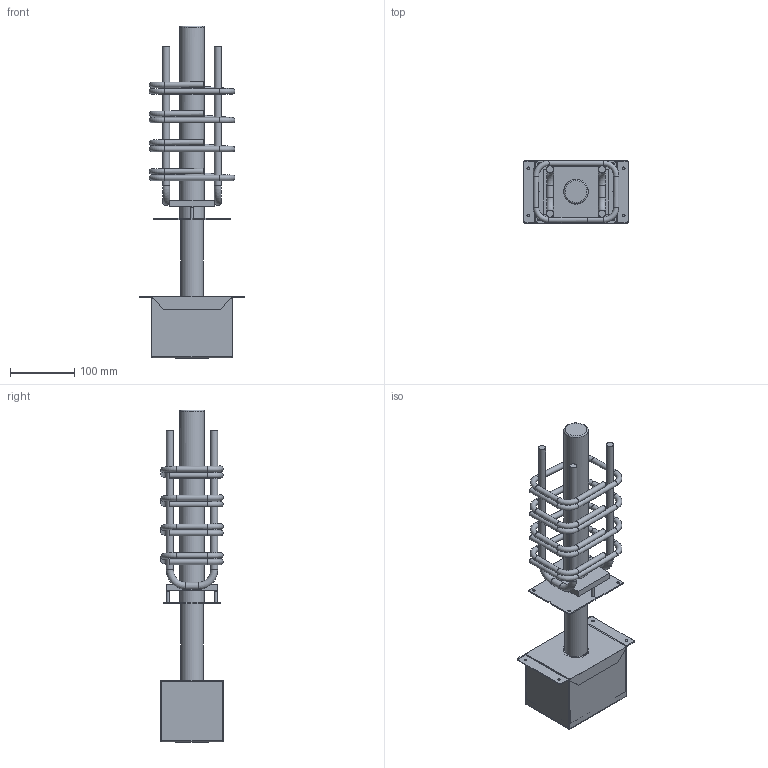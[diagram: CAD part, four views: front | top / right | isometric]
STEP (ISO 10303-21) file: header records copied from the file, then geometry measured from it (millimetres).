
FILE_DESCRIPTION(/* description */ (''),/* implementation_level */ '2;1');
FILE_NAME(/* name */ 'C:\Vault_Lokal\CAD Daten\05 Schallisolation\Fertigungszeichnungen_Standard\Sinton Q\Sinton Q2-J120_Vereinfachen_1.stp',/* time_stamp */ '2023-03-28T08:05:35+02:00',/* author */ ('Markus.niemann'),/* organization */ ('PohlCon GmbH'),/* preprocessor_version */ 'ST-DEVELOPER v18.1',/* originating_system */ 'Autodesk Inventor 2022',/* authorisation */ '');
FILE_SCHEMA (('AUTOMOTIVE_DESIGN { 1 0 10303 214 3 1 1 }'));
Length unit declared in the file: millimetre
Products named in the file (1): Sinton Q2-J120_Vereinfachen_1
Bounding box: 165 x 98.14 x 518.1 mm (x, y, z)
Volume: 1926263.3 mm3; surface area: 306918 mm2
Topology: 8 solids, 8 shells, 275 faces, 725 edges, 460 vertices
Faces by surface type: plane 150, cylinder 96, torus 25, sphere 4
Full cylindrical faces by diameter (mm): 3.9 x2, 4 x10, 8.5 x24, 11 x4, 35 x1, 35.2 x1, 36 x1, 38 x1, 38.5 x2
Entity records: 9051 total; most frequent: DIRECTION 1568, CARTESIAN_POINT 1487, ORIENTED_EDGE 1454, EDGE_CURVE 727, AXIS2_PLACEMENT_3D 569, VERTEX_POINT 464, LINE 430, VECTOR 430
